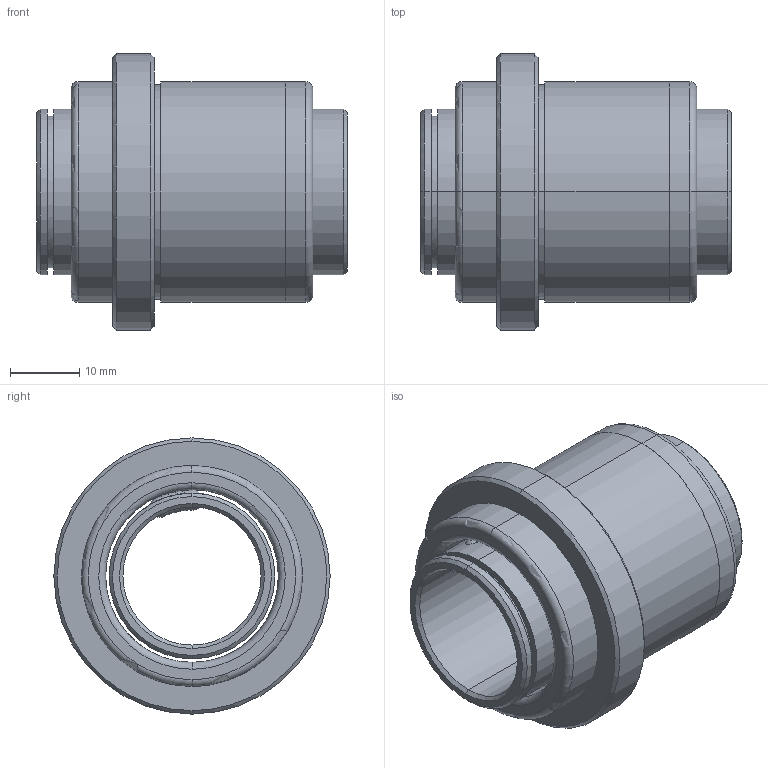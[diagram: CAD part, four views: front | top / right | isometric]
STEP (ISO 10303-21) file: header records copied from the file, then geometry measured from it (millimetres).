
FILE_DESCRIPTION(('CATIA V5 STEP Exchange'),'2;1');
FILE_NAME('C:\Users\Utente\Desktop\IO LAVORO\3D X SITO CF\X SITO\732\732-19.stp','2021-01-10T19:39:24+00:00',('none'),('none'),'CATIA Version 5 Release 20 GA (IN-10)','CATIA V5 STEP AP203','none');
FILE_SCHEMA(('CONFIG_CONTROL_DESIGN'));
Length unit declared in the file: millimetre
Products named in the file (1): 732-19
Assembly tree (2 placements, depth 2):
  732-19
    #58
    #1423
Bounding box: 45 x 40 x 40 mm (x, y, z)
Volume: 19641.1 mm3; surface area: 14380.5 mm2
Topology: 2 solids, 2 shells, 74 faces, 230 edges, 174 vertices
Faces by surface type: sphere 24, cylinder 20, cone 12, plane 10, torus 8
Entity records: 3158 total; most frequent: CARTESIAN_POINT 1077, ORIENTED_EDGE 460, DIRECTION 326, EDGE_CURVE 230, AXIS2_PLACEMENT_3D 212, VERTEX_POINT 174, CIRCLE 134, EDGE_LOOP 92
